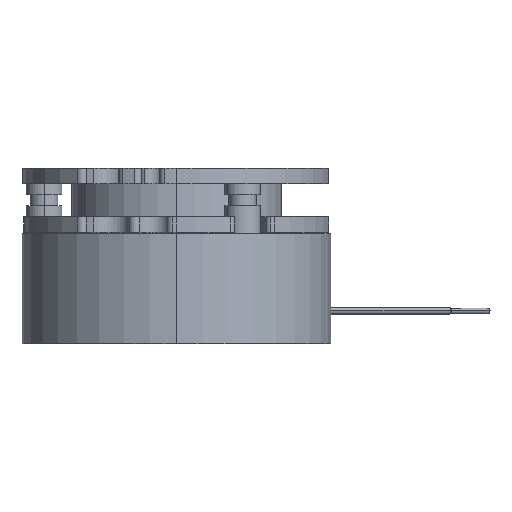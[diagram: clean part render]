
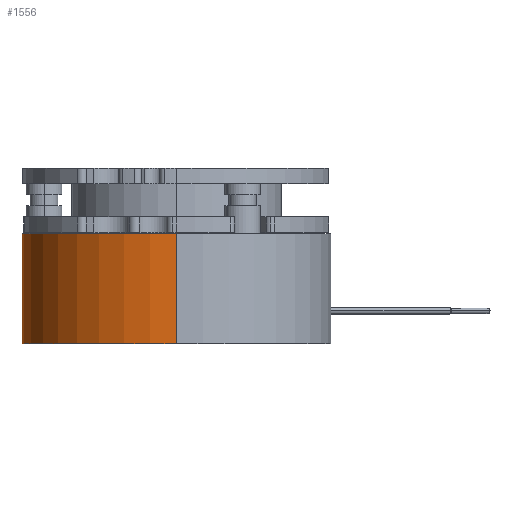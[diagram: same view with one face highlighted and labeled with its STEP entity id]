
A CAD part, left-side view. The second image highlights one B-rep face of the part: STEP entity #1556.
In plain terms, the highlighted cylindrical face has radius 28 mm (diameter 56 mm), a partial arc.
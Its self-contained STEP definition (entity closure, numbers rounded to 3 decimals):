
#278 = ORIENTED_EDGE ( 'NONE', *, *, #6328, .F. ) ;
#280 = ORIENTED_EDGE ( 'NONE', *, *, #6329, .T. ) ;
#282 = ORIENTED_EDGE ( 'NONE', *, *, #6330, .T. ) ;
#284 = ORIENTED_EDGE ( 'NONE', *, *, #6331, .F. ) ;
#454 = CARTESIAN_POINT ( 'NONE',  ( 0., 0., 20. ) ) ;
#455 = DIRECTION ( 'NONE',  ( 0., 0., -1. ) ) ;
#463 = DIRECTION ( 'NONE',  ( -1., 0., 0. ) ) ;
#1462 = DIRECTION ( 'NONE',  ( 0., 0., -1. ) ) ;
#1463 = CARTESIAN_POINT ( 'NONE',  ( -28., 0., 20. ) ) ;
#1486 = DIRECTION ( 'NONE',  ( 0., 0., -1. ) ) ;
#1488 = CARTESIAN_POINT ( 'NONE',  ( 28., 0., 20. ) ) ;
#1489 = CARTESIAN_POINT ( 'NONE',  ( 0., 0., 0. ) ) ;
#1490 = DIRECTION ( 'NONE',  ( 0., 0., 1. ) ) ;
#1491 = DIRECTION ( 'NONE',  ( 1., 0., 0. ) ) ;
#1493 = CARTESIAN_POINT ( 'NONE',  ( 0., 0., 20. ) ) ;
#1494 = DIRECTION ( 'NONE',  ( 0., 0., 1. ) ) ;
#1495 = DIRECTION ( 'NONE',  ( 1., 0., 0. ) ) ;
#1556 = ADVANCED_FACE ( 'NONE', ( #2637 ), #2645, .T. ) ;
#2637 = FACE_OUTER_BOUND ( 'NONE', #9374, .T. ) ;
#2645 = CYLINDRICAL_SURFACE ( 'NONE', #9904, 28. ) ;
#3628 = CARTESIAN_POINT ( 'NONE',  ( 28., 0., 0. ) ) ;
#3641 = CARTESIAN_POINT ( 'NONE',  ( -28., 0., 0. ) ) ;
#3644 = CARTESIAN_POINT ( 'NONE',  ( -28., 0., 20. ) ) ;
#3646 = CARTESIAN_POINT ( 'NONE',  ( 28., 0., 20. ) ) ;
#5507 = CIRCLE ( 'NONE', #8810, 28. ) ;
#5513 = LINE ( 'NONE', #1463, #5515 ) ;
#5514 = LINE ( 'NONE', #1488, #5518 ) ;
#5515 = VECTOR ( 'NONE', #1462, 1000. ) ;
#5517 = CIRCLE ( 'NONE', #8811, 28. ) ;
#5518 = VECTOR ( 'NONE', #1486, 1000. ) ;
#6328 = EDGE_CURVE ( 'NONE', #9357, #9354, #5513, .T. ) ;
#6329 = EDGE_CURVE ( 'NONE', #9341, #9354, #5507, .T. ) ;
#6330 = EDGE_CURVE ( 'NONE', #9359, #9341, #5514, .T. ) ;
#6331 = EDGE_CURVE ( 'NONE', #9359, #9357, #5517, .T. ) ;
#8810 = AXIS2_PLACEMENT_3D ( 'NONE', #1489, #1490, #1491 ) ;
#8811 = AXIS2_PLACEMENT_3D ( 'NONE', #1493, #1494, #1495 ) ;
#9341 = VERTEX_POINT ( 'NONE', #3628 ) ;
#9354 = VERTEX_POINT ( 'NONE', #3641 ) ;
#9357 = VERTEX_POINT ( 'NONE', #3644 ) ;
#9359 = VERTEX_POINT ( 'NONE', #3646 ) ;
#9374 = EDGE_LOOP ( 'NONE', ( #284, #282, #280, #278 ) ) ;
#9904 = AXIS2_PLACEMENT_3D ( 'NONE', #454, #455, #463 ) ;
